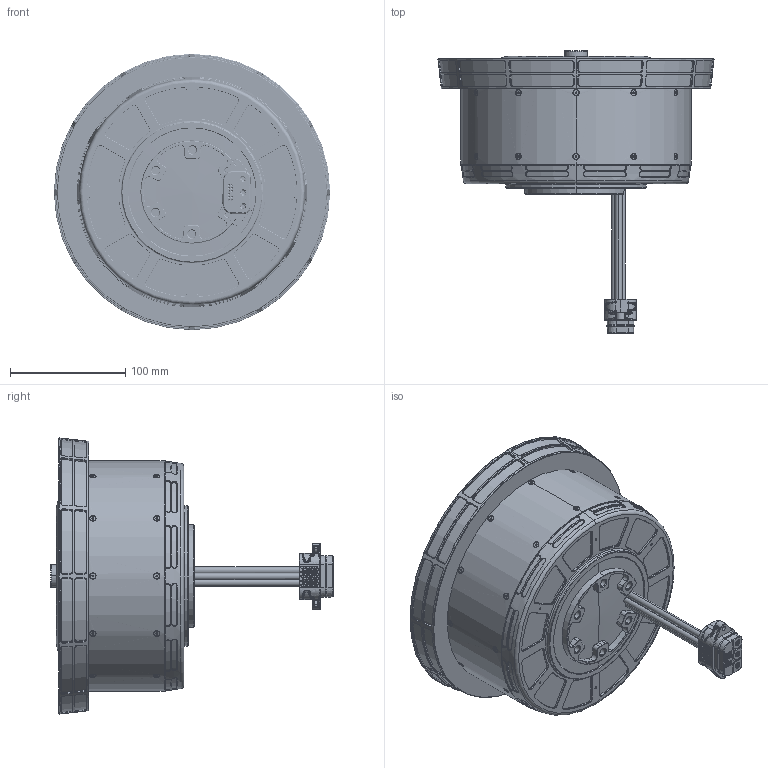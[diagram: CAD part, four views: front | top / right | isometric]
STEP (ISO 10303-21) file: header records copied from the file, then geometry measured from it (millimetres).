
FILE_DESCRIPTION (( 'STEP AP203' ), '1' );
FILE_NAME ('P95M-18645-勤俋杅耀.STEP', '2026-07-16T10:26:01', ( '' ), ( '' ), 'SwSTEP 2.0', 'SolidWorks 2021', '' );
FILE_SCHEMA (( 'CONFIG_CONTROL_DESIGN' ));
Products named in the file (1): P95M-18645-勤俋杅耀
Bounding box: 239.93 x 245.33 x 239.93 mm (x, y, z)
Volume: 3785580.2 mm3; surface area: 242473.3 mm2
Topology: 24 solids, 41 shells, 6216 faces, 16641 edges, 10751 vertices
Faces by surface type: plane 2892, bspline 1422, cylinder 972, cone 881, torus 49
Entity records: 299829 total; most frequent: CARTESIAN_POINT 158278, ORIENTED_EDGE 33258, DIRECTION 23276, EDGE_CURVE 16629, VERTEX_POINT 10751, AXIS2_PLACEMENT_3D 7920, LINE 7436, VECTOR 7436
